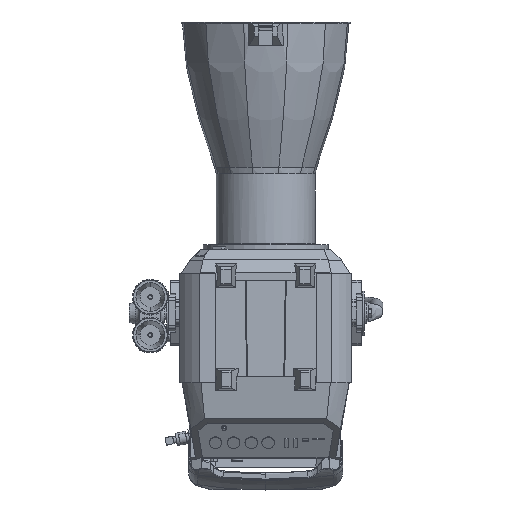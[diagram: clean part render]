
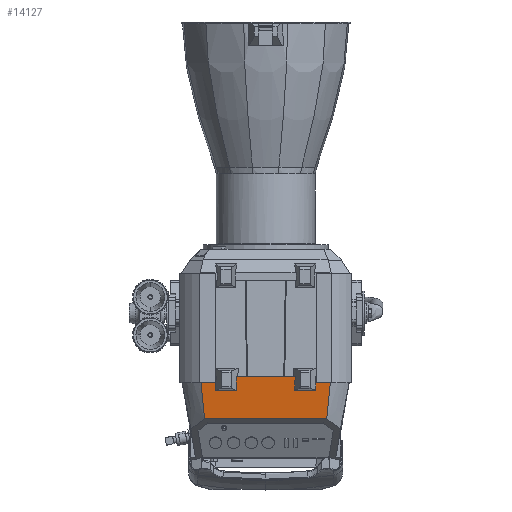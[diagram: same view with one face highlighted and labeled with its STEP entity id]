
A CAD part, front view. The second image highlights one B-rep face of the part: STEP entity #14127.
In plain terms, the highlighted planar face has unit normal (0, -0.994, -0.106).
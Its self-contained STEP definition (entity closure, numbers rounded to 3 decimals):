
#191 = VERTEX_POINT ( 'NONE', #42428 ) ;
#617 = CARTESIAN_POINT ( 'NONE',  ( -80.501, -141.25, -155.643 ) ) ;
#706 = DIRECTION ( 'NONE',  ( 0.099, 0.105, -0.99 ) ) ;
#811 = LINE ( 'NONE', #7204, #80558 ) ;
#821 = ORIENTED_EDGE ( 'NONE', *, *, #81644, .T. ) ;
#1817 = DIRECTION ( 'NONE',  ( 0.06, -0.105, 0.993 ) ) ;
#1999 = CARTESIAN_POINT ( 'NONE',  ( -78.189, -142.415, -144.67 ) ) ;
#2302 = CARTESIAN_POINT ( 'NONE',  ( 78.952, -141.086, -157.182 ) ) ;
#2901 = ORIENTED_EDGE ( 'NONE', *, *, #51412, .T. ) ;
#3782 = DIRECTION ( 'NONE',  ( 0.06, -0.105, 0.993 ) ) ;
#6753 = EDGE_CURVE ( 'NONE', #46827, #191, #51360, .T. ) ;
#6779 = CARTESIAN_POINT ( 'NONE',  ( 80.501, -141.248, -155.662 ) ) ;
#6924 = DIRECTION ( 'NONE',  ( -1., 0., 0. ) ) ;
#7204 = CARTESIAN_POINT ( 'NONE',  ( 0., -141.248, -155.66 ) ) ;
#8652 = VECTOR ( 'NONE', #60414, 1000. ) ;
#9338 = EDGE_CURVE ( 'NONE', #46827, #55635, #24105, .T. ) ;
#9428 = EDGE_CURVE ( 'NONE', #14518, #31039, #78315, .T. ) ;
#9724 = CARTESIAN_POINT ( 'NONE',  ( 104.215, -140.239, -165.167 ) ) ;
#9751 = CARTESIAN_POINT ( 'NONE',  ( 47.141, -141.248, -155.66 ) ) ;
#12023 = EDGE_CURVE ( 'NONE', #54090, #66414, #58034, .T. ) ;
#13719 = CARTESIAN_POINT ( 'NONE',  ( 80.501, -140.238, -165.171 ) ) ;
#14127 = ADVANCED_FACE ( 'NONE', ( #34072 ), #80185, .T. ) ;
#14370 = LINE ( 'NONE', #56165, #58000 ) ;
#14518 = VERTEX_POINT ( 'NONE', #76856 ) ;
#15504 = EDGE_LOOP ( 'NONE', ( #24688, #51705, #22504, #34079, #64295, #2901, #45689, #23793, #821, #44701, #35775, #77900, #84300, #68137, #41550, #42303 ) ) ;
#18359 = DIRECTION ( 'NONE',  ( -1., 0., 0. ) ) ;
#19386 = VECTOR ( 'NONE', #70925, 1000. ) ;
#19398 = CARTESIAN_POINT ( 'NONE',  ( 78.859, -141.248, -155.66 ) ) ;
#19554 = EDGE_CURVE ( 'NONE', #54601, #14518, #42274, .T. ) ;
#19575 = VERTEX_POINT ( 'NONE', #75411 ) ;
#20279 = VECTOR ( 'NONE', #1817, 1000. ) ;
#20546 = VERTEX_POINT ( 'NONE', #27953 ) ;
#21188 = EDGE_CURVE ( 'NONE', #191, #75752, #58814, .T. ) ;
#21730 = DIRECTION ( 'NONE',  ( -0.099, 0.105, -0.99 ) ) ;
#22347 = CARTESIAN_POINT ( 'NONE',  ( 97.483, -134.122, -222.771 ) ) ;
#22504 = ORIENTED_EDGE ( 'NONE', *, *, #12023, .F. ) ;
#22616 = VECTOR ( 'NONE', #46041, 1000. ) ;
#22663 = VECTOR ( 'NONE', #84507, 1000. ) ;
#23539 = LINE ( 'NONE', #46742, #8652 ) ;
#23616 = VECTOR ( 'NONE', #49905, 1000. ) ;
#23793 = ORIENTED_EDGE ( 'NONE', *, *, #84845, .T. ) ;
#24105 = LINE ( 'NONE', #47924, #61401 ) ;
#24688 = ORIENTED_EDGE ( 'NONE', *, *, #69839, .F. ) ;
#25690 = VECTOR ( 'NONE', #86379, 1000. ) ;
#26741 = LINE ( 'NONE', #57318, #23616 ) ;
#26897 = LINE ( 'NONE', #38200, #22663 ) ;
#27472 = DIRECTION ( 'NONE',  ( 0., 0.106, -0.994 ) ) ;
#27953 = CARTESIAN_POINT ( 'NONE',  ( -45.811, -138.93, -177.492 ) ) ;
#28900 = VECTOR ( 'NONE', #57285, 1000. ) ;
#29913 = DIRECTION ( 'NONE',  ( 1., 0., 0. ) ) ;
#31039 = VERTEX_POINT ( 'NONE', #22347 ) ;
#34072 = FACE_OUTER_BOUND ( 'NONE', #15504, .T. ) ;
#34079 = ORIENTED_EDGE ( 'NONE', *, *, #84147, .T. ) ;
#35775 = ORIENTED_EDGE ( 'NONE', *, *, #21188, .F. ) ;
#38200 = CARTESIAN_POINT ( 'NONE',  ( 104.214, -138.93, -177.492 ) ) ;
#39832 = DIRECTION ( 'NONE',  ( 0., -0.994, -0.106 ) ) ;
#40657 = EDGE_CURVE ( 'NONE', #79577, #45398, #68119, .T. ) ;
#40950 = CARTESIAN_POINT ( 'NONE',  ( 80.158, -138.984, -176.982 ) ) ;
#41550 = ORIENTED_EDGE ( 'NONE', *, *, #9428, .F. ) ;
#42210 = VECTOR ( 'NONE', #21730, 1000. ) ;
#42274 = LINE ( 'NONE', #57024, #44386 ) ;
#42303 = ORIENTED_EDGE ( 'NONE', *, *, #19554, .F. ) ;
#42428 = CARTESIAN_POINT ( 'NONE',  ( -80.501, -140.238, -165.171 ) ) ;
#42724 = CARTESIAN_POINT ( 'NONE',  ( -103.261, -140.238, -165.172 ) ) ;
#43801 = LINE ( 'NONE', #79506, #25690 ) ;
#44386 = VECTOR ( 'NONE', #29913, 1000. ) ;
#44701 = ORIENTED_EDGE ( 'NONE', *, *, #78184, .T. ) ;
#45398 = VERTEX_POINT ( 'NONE', #9751 ) ;
#45689 = ORIENTED_EDGE ( 'NONE', *, *, #88143, .F. ) ;
#46041 = DIRECTION ( 'NONE',  ( 0., -0.106, 0.994 ) ) ;
#46286 = LINE ( 'NONE', #6779, #51446 ) ;
#46742 = CARTESIAN_POINT ( 'NONE',  ( 0., -141.248, -155.66 ) ) ;
#46827 = VERTEX_POINT ( 'NONE', #42724 ) ;
#47924 = CARTESIAN_POINT ( 'NONE',  ( -100.247, -137.048, -195.215 ) ) ;
#49234 = CARTESIAN_POINT ( 'NONE',  ( -47.141, -141.248, -155.66 ) ) ;
#49635 = CARTESIAN_POINT ( 'NONE',  ( 47.35, -141.612, -152.234 ) ) ;
#49905 = DIRECTION ( 'NONE',  ( 1., 0., 0. ) ) ;
#50216 = LINE ( 'NONE', #50469, #28900 ) ;
#50469 = CARTESIAN_POINT ( 'NONE',  ( -46.587, -140.283, -164.746 ) ) ;
#51360 = LINE ( 'NONE', #9724, #19386 ) ;
#51412 = EDGE_CURVE ( 'NONE', #45398, #60753, #811, .T. ) ;
#51446 = VECTOR ( 'NONE', #27472, 1000. ) ;
#51705 = ORIENTED_EDGE ( 'NONE', *, *, #80720, .T. ) ;
#52144 = CARTESIAN_POINT ( 'NONE',  ( -80.501, -141.248, -155.66 ) ) ;
#53912 = CARTESIAN_POINT ( 'NONE',  ( -97.483, -134.122, -222.771 ) ) ;
#54090 = VERTEX_POINT ( 'NONE', #40950 ) ;
#54601 = VERTEX_POINT ( 'NONE', #13719 ) ;
#55635 = VERTEX_POINT ( 'NONE', #53912 ) ;
#56165 = CARTESIAN_POINT ( 'NONE',  ( 104.214, -138.984, -176.982 ) ) ;
#57024 = CARTESIAN_POINT ( 'NONE',  ( 104.214, -140.238, -165.172 ) ) ;
#57285 = DIRECTION ( 'NONE',  ( -0.06, -0.105, 0.993 ) ) ;
#57318 = CARTESIAN_POINT ( 'NONE',  ( 104.214, -134.122, -222.771 ) ) ;
#58000 = VECTOR ( 'NONE', #64724, 1000. ) ;
#58034 = LINE ( 'NONE', #2302, #71827 ) ;
#58814 = LINE ( 'NONE', #617, #22616 ) ;
#60414 = DIRECTION ( 'NONE',  ( -1., 0., 0. ) ) ;
#60753 = VERTEX_POINT ( 'NONE', #49234 ) ;
#61401 = VECTOR ( 'NONE', #706, 1000. ) ;
#64295 = ORIENTED_EDGE ( 'NONE', *, *, #40657, .T. ) ;
#64724 = DIRECTION ( 'NONE',  ( -1., 0., 0. ) ) ;
#64803 = LINE ( 'NONE', #1999, #84986 ) ;
#66414 = VERTEX_POINT ( 'NONE', #19398 ) ;
#67163 = VERTEX_POINT ( 'NONE', #78216 ) ;
#68119 = LINE ( 'NONE', #49635, #20279 ) ;
#68137 = ORIENTED_EDGE ( 'NONE', *, *, #73938, .T. ) ;
#68958 = CARTESIAN_POINT ( 'NONE',  ( -80.189, -138.93, -177.492 ) ) ;
#69839 = EDGE_CURVE ( 'NONE', #19575, #54601, #46286, .T. ) ;
#70190 = CARTESIAN_POINT ( 'NONE',  ( 100.247, -137.048, -195.215 ) ) ;
#70925 = DIRECTION ( 'NONE',  ( 1., 0., 0. ) ) ;
#71827 = VECTOR ( 'NONE', #77077, 1000. ) ;
#73510 = VERTEX_POINT ( 'NONE', #68958 ) ;
#73938 = EDGE_CURVE ( 'NONE', #55635, #31039, #26741, .T. ) ;
#75011 = CARTESIAN_POINT ( 'NONE',  ( 45.842, -138.984, -176.982 ) ) ;
#75411 = CARTESIAN_POINT ( 'NONE',  ( 80.501, -141.248, -155.66 ) ) ;
#75752 = VERTEX_POINT ( 'NONE', #52144 ) ;
#76856 = CARTESIAN_POINT ( 'NONE',  ( 103.261, -140.238, -165.172 ) ) ;
#77077 = DIRECTION ( 'NONE',  ( -0.06, -0.105, 0.993 ) ) ;
#77900 = ORIENTED_EDGE ( 'NONE', *, *, #6753, .F. ) ;
#78184 = EDGE_CURVE ( 'NONE', #67163, #75752, #23539, .T. ) ;
#78216 = CARTESIAN_POINT ( 'NONE',  ( -78.859, -141.248, -155.66 ) ) ;
#78315 = LINE ( 'NONE', #70190, #42210 ) ;
#79506 = CARTESIAN_POINT ( 'NONE',  ( 0., -141.248, -155.66 ) ) ;
#79577 = VERTEX_POINT ( 'NONE', #75011 ) ;
#80185 = PLANE ( 'NONE',  #86238 ) ;
#80558 = VECTOR ( 'NONE', #6924, 1000. ) ;
#80720 = EDGE_CURVE ( 'NONE', #19575, #66414, #43801, .T. ) ;
#81644 = EDGE_CURVE ( 'NONE', #73510, #67163, #64803, .T. ) ;
#84147 = EDGE_CURVE ( 'NONE', #54090, #79577, #14370, .T. ) ;
#84300 = ORIENTED_EDGE ( 'NONE', *, *, #9338, .T. ) ;
#84507 = DIRECTION ( 'NONE',  ( -1., 0., 0. ) ) ;
#84845 = EDGE_CURVE ( 'NONE', #20546, #73510, #26897, .T. ) ;
#84986 = VECTOR ( 'NONE', #3782, 1000. ) ;
#86238 = AXIS2_PLACEMENT_3D ( 'NONE', #87050, #39832, #18359 ) ;
#86379 = DIRECTION ( 'NONE',  ( -1., 0., 0. ) ) ;
#87050 = CARTESIAN_POINT ( 'NONE',  ( 104.214, -141.248, -155.66 ) ) ;
#88143 = EDGE_CURVE ( 'NONE', #20546, #60753, #50216, .T. ) ;
